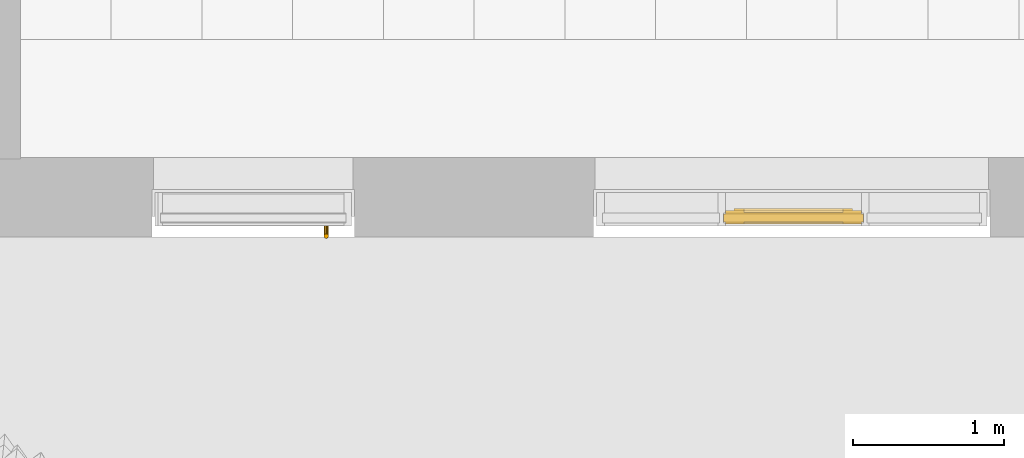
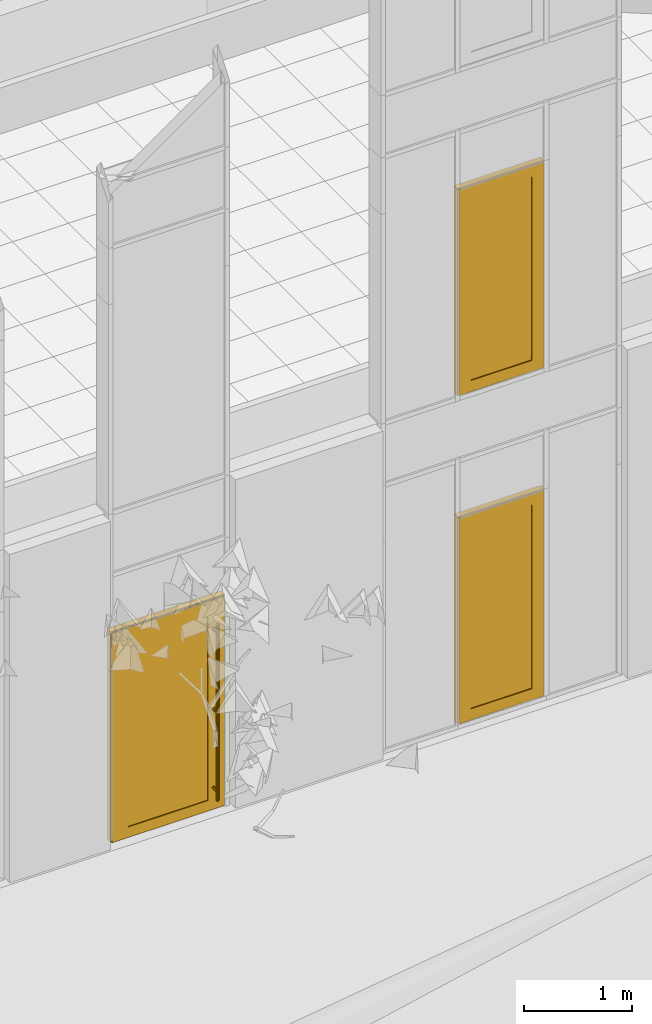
# One storey, part 152 of 246: 2 windows, 1 door, 2 elements without a shape of their own.
"""IFC2X3 building model written with IfcOpenShell, lengths in millimetres."""

import ifcopenshell
import ifcopenshell.guid

model = None  # the IFC model being written
_history = None  # IfcOwnerHistory: only IFC2X3 demands one
_inside = {}  # id of a spatial element -> (the spatial element, [elements in it])
_under = {}  # id of a project, library or spatial element -> (it, [spatial elements below it])
_declared = {}  # id of a project -> (the project, [libraries it declares])
_typed = {}  # id of a type object -> (the type object, [elements of that type])
_made_of = {}  # id of a material, layer set ... -> (it, [elements and type objects made of it])


def new_model(schema):
    """Start an empty IFC model of exactly this schema.

    Asked for "IFC4X3", IfcOpenShell would pick the latest addendum, in which some entities
    have other attributes; the version numbers below select the first issue.
    IFC2X3 requires an IfcOwnerHistory on every rooted entity: one is made here for all.
    """
    global model, _history
    if schema == "IFC4X3":
        model = ifcopenshell.file(schema_version=(4, 3, 0, 0))
    else:
        model = ifcopenshell.file(schema=schema)
    _inside.clear()
    _under.clear()
    _declared.clear()
    _typed.clear()
    _made_of.clear()
    _history = None
    if model.schema == "IFC2X3":
        org = make("IfcOrganization", Name="unknown")
        user = make(
            "IfcPersonAndOrganization",
            ThePerson=make("IfcPerson", FamilyName="unknown"),
            TheOrganization=org,
        )
        app = make(
            "IfcApplication",
            ApplicationDeveloper=org,
            Version="unknown",
            ApplicationFullName="unknown",
            ApplicationIdentifier="unknown",
        )
        _history = make(
            "IfcOwnerHistory",
            OwningUser=user,
            OwningApplication=app,
            ChangeAction="ADDED",
            CreationDate=0,
        )
    return model


def make(cls, **values):
    """One entity of the class cls with the attributes given. An attribute that is None is left unset."""
    return model.create_entity(
        cls, **{name: value for name, value in values.items() if value is not None}
    )


def entity(cls, *values):
    """Any entity or typed value of the class cls, its attributes in the order of the schema. None: left unset."""
    e = model.create_entity(cls)
    for i, value in enumerate(values):
        if value is not None:
            e[i] = value
    return e


def rooted(cls, **values):
    """An entity with a GlobalId (a new one), such as an element, a storey or a relation."""
    return make(cls, GlobalId=ifcopenshell.guid.new(), OwnerHistory=_history, **values)


def si_unit(unit_type, name, prefix=None):
    """IfcSIUnit, for example si_unit("LENGTHUNIT", "METRE", prefix="MILLI")."""
    return make("IfcSIUnit", UnitType=unit_type, Prefix=prefix, Name=name)


def converted_unit(unit_type, name, factor, base, dimensions=None, offset=None):
    """IfcConversionBasedUnit, such as the inch: factor (a typed value) times the base unit."""
    return make(
        "IfcConversionBasedUnit"
        if offset is None
        else "IfcConversionBasedUnitWithOffset",
        ConversionOffset=offset,
        Dimensions=None
        if dimensions is None
        else entity("IfcDimensionalExponents", *dimensions),
        UnitType=unit_type,
        Name=name,
        ConversionFactor=make(
            "IfcMeasureWithUnit", ValueComponent=factor, UnitComponent=base
        ),
    )


def derived_unit(unit_type, elements):
    """IfcDerivedUnit: a product of units, each with its exponent."""
    return make(
        "IfcDerivedUnit",
        Elements=[
            make("IfcDerivedUnitElement", Unit=unit, Exponent=power)
            for unit, power in elements
        ],
        UnitType=unit_type,
    )


def money_unit(currency):
    """IfcMonetaryUnit."""
    return make("IfcMonetaryUnit", Currency=currency)


def assignment(units):
    """IfcUnitAssignment: the units of a project."""
    return None if units is None else make("IfcUnitAssignment", Units=units)


def point(xyz):
    """IfcCartesianPoint."""
    return None if xyz is None else make("IfcCartesianPoint", Coordinates=xyz)


def direction(xyz):
    """IfcDirection."""
    return None if xyz is None else make("IfcDirection", DirectionRatios=xyz)


def frame(location, z_axis=None, x_axis=None):
    """IfcAxis2Placement3D, a coordinate frame: its origin and axes. An axis left out is left unset."""
    return make(
        "IfcAxis2Placement3D",
        Location=point(location),
        Axis=direction(z_axis),
        RefDirection=direction(x_axis),
    )


def origin_with_axes():
    """The frame at (0, 0, 0) with the z axis (0, 0, 1) and the x axis (1, 0, 0) written out."""
    return frame((0.0, 0.0, 0.0), z_axis=(0.0, 0.0, 1.0), x_axis=(1.0, 0.0, 0.0))


def place(relative_to, where):
    """IfcLocalPlacement: puts the frame where relative to a parent placement (None: the world)."""
    return make(
        "IfcLocalPlacement", PlacementRelTo=relative_to, RelativePlacement=where
    )


def context(
    kind, dimensions, precision=None, world=None, true_north=None, identifier=None
):
    """IfcGeometricRepresentationContext, for example the 3D "Model" context."""
    return make(
        "IfcGeometricRepresentationContext",
        ContextIdentifier=identifier,
        ContextType=kind,
        CoordinateSpaceDimension=dimensions,
        Precision=precision,
        WorldCoordinateSystem=world,
        TrueNorth=true_north,
    )


def subcontext(parent, identifier, kind, view, scale=None):
    """IfcGeometricRepresentationSubContext, for example "Body" below "Model"."""
    return make(
        "IfcGeometricRepresentationSubContext",
        ContextIdentifier=identifier,
        ContextType=kind,
        ParentContext=parent,
        TargetScale=scale,
        TargetView=view,
    )


def project(units=None, contexts=None):
    """IfcProject with its units and contexts."""
    return rooted(
        "IfcProject",
        Name="project",
        RepresentationContexts=contexts,
        UnitsInContext=assignment(units),
    )


def spatial(cls, under=None, at=None, **own):
    """A site, building, storey or space (cls), placed at a placement, below another one or the project."""
    s = rooted(cls, ObjectPlacement=at, **own)
    if under is not None:
        _under.setdefault(under.id(), (under, []))[1].append(s)
    return s


def faces_of(points, faces, orient=None, outer=None):
    """IfcFace entities. A face is a list of loops; a loop is a list of indices into points, from 0.

    orient and outer hold one flag for each loop. By default every Orientation is true, the
    first loop of a face is its IfcFaceOuterBound and the others are IfcFaceBound.
    """
    made = []
    for i, loops in enumerate(faces):
        bounds = []
        for j, loop in enumerate(loops):
            is_outer = j == 0 if outer is None else outer[i][j]
            bounds.append(
                make(
                    "IfcFaceOuterBound" if is_outer else "IfcFaceBound",
                    Bound=make("IfcPolyLoop", Polygon=[points[k] for k in loop]),
                    Orientation=True if orient is None else orient[i][j],
                )
            )
        made.append(make("IfcFace", Bounds=bounds))
    return made


def open_shell(faces, orient=None, outer=None):
    """The faces of one IfcOpenShell. surface_model builds it on its shared points."""
    return ("IfcOpenShell", faces, orient, outer)


def faceted_brep(points, faces, orient=None, outer=None, voids=None):
    """IfcFacetedBrep: a solid bounded by flat faces; with voids (closed shells), ...WithVoids."""
    shared = [point(p) for p in points]
    hull = make("IfcClosedShell", CfsFaces=faces_of(shared, faces, orient, outer))
    if voids is None:
        return make("IfcFacetedBrep", Outer=hull)
    return make(
        "IfcFacetedBrepWithVoids",
        Outer=hull,
        Voids=[
            make(cls, CfsFaces=faces_of(shared, fs, o, b)) for cls, fs, o, b in voids
        ],
    )


def surface_model(cls, points, shells):
    """IfcFaceBasedSurfaceModel or IfcShellBasedSurfaceModel (cls): surfaces that need not close."""
    shared = [point(p) for p in points]
    made = [make(c, CfsFaces=faces_of(shared, fs, o, b)) for c, fs, o, b in shells]
    if cls == "IfcFaceBasedSurfaceModel":
        return make(cls, FbsmFaces=made)
    return make(cls, SbsmBoundary=made)


def shape(context_of_items, identifier, shape_type, items):
    """IfcShapeRepresentation: the items that make up one representation, for example the "Body"."""
    return make(
        "IfcShapeRepresentation",
        ContextOfItems=context_of_items,
        RepresentationIdentifier=identifier,
        RepresentationType=shape_type,
        Items=items,
    )


def source(mapping_origin, context_of_items, identifier, shape_type, items):
    """IfcRepresentationMap: a shape defined once, which mapped items show again and again."""
    return make(
        "IfcRepresentationMap",
        MappingOrigin=mapping_origin,
        MappedRepresentation=shape(context_of_items, identifier, shape_type, items),
    )


def transform(
    local_origin,
    x_axis=None,
    y_axis=None,
    z_axis=None,
    scale=None,
    scale2=None,
    scale3=None,
    uniform=True,
):
    """IfcCartesianTransformationOperator3D, or its non-uniform kind. x_axis, y_axis, z_axis: its Axis1, 2, 3."""
    if uniform:
        return make(
            "IfcCartesianTransformationOperator3D",
            Axis1=direction(x_axis),
            Axis2=direction(y_axis),
            LocalOrigin=point(local_origin),
            Scale=scale,
            Axis3=direction(z_axis),
        )
    return make(
        "IfcCartesianTransformationOperator3DnonUniform",
        Axis1=direction(x_axis),
        Axis2=direction(y_axis),
        LocalOrigin=point(local_origin),
        Scale=scale,
        Axis3=direction(z_axis),
        Scale2=scale2,
        Scale3=scale3,
    )


def mapped(mapping_source, mapping_target):
    """IfcMappedItem: shows the shape of a source again, moved by a transform."""
    return make(
        "IfcMappedItem", MappingSource=mapping_source, MappingTarget=mapping_target
    )


def material(Name=None, Category=None):
    """IfcMaterial."""
    return make("IfcMaterial", Name=Name, Category=Category)


def material_list(materials):
    """IfcMaterialList."""
    return make("IfcMaterialList", Materials=materials)


def made_of(thing, what):
    """Note that an element or type object is made of a material, layer set ...; save() writes the relation."""
    if what is not None:
        _made_of.setdefault(what.id(), (what, []))[1].append(thing)
    return thing


def type_object(cls, material=None, **own):
    """A type object (cls), such as IfcWallType, which elements share."""
    return made_of(rooted(cls, **own), material)


def element(
    cls,
    number,
    at=None,
    inside=None,
    cuts=None,
    type_object=None,
    material=None,
    context=None,
    identifier="Body",
    shape_type=None,
    held_by="IfcProductDefinitionShape",
    body=None,
    shapes=None,
    **own,
):
    """One element of the class cls, such as IfcWall. Its Tag is "e" and its number.

    at: its placement. inside: the storey or other place that contains it. cuts: it is an
    opening in that element (IfcRelVoidsElement). A single representation is given by context,
    identifier, shape_type and body (its items); several are given by shapes. held_by: the class
    of the entity that holds the representations. save() writes the other relations.
    """
    e = rooted(cls, Tag="e%d" % number, ObjectPlacement=at, **own)
    if body is not None:
        shapes = [shape(context, identifier, shape_type, body)]
    if shapes is not None:
        e.Representation = make(held_by, Representations=shapes)
    if inside is not None:
        _inside.setdefault(inside.id(), (inside, []))[1].append(e)
    if cuts is not None:
        rooted(
            "IfcRelVoidsElement", RelatingBuildingElement=cuts, RelatedOpeningElement=e
        )
    if type_object is not None:
        _typed.setdefault(type_object.id(), (type_object, []))[1].append(e)
    return made_of(e, material)


def aggregate(whole, parts):
    """IfcRelAggregates: a whole, such as a stair, and the parts it consists of."""
    return rooted("IfcRelAggregates", RelatingObject=whole, RelatedObjects=parts)


def save(model, path):
    """Write the relations noted so far, then the file.

    IfcRelAggregates (storeys below a building ...), IfcRelContainedInSpatialStructure (elements
    in a storey), IfcRelDefinesByType, IfcRelAssociatesMaterial and IfcRelDeclares: one each for
    every whole, place, type object, material and project.
    """
    for whole, parts in _under.values():
        aggregate(whole, parts)
    for where, things in _inside.values():
        rooted(
            "IfcRelContainedInSpatialStructure",
            RelatedElements=things,
            RelatingStructure=where,
        )
    for kind, things in _typed.values():
        rooted("IfcRelDefinesByType", RelatedObjects=things, RelatingType=kind)
    for what, things in _made_of.values():
        rooted("IfcRelAssociatesMaterial", RelatedObjects=things, RelatingMaterial=what)
    for by, libraries in _declared.values():
        rooted("IfcRelDeclares", RelatingContext=by, RelatedDefinitions=libraries)
    model.write(path)


model = new_model("IFC2X3")

# Units and contexts
model_context = context("Model", 3, precision=0.01, world=origin_with_axes(), true_north=direction((0.0, 1.0)))
body_context = subcontext(model_context, "Body", "Model", "MODEL_VIEW")
ifc_project = project(units=[si_unit("LENGTHUNIT", "METRE", prefix="MILLI"), si_unit("AREAUNIT", "SQUARE_METRE"), si_unit("VOLUMEUNIT", "CUBIC_METRE"), converted_unit("PLANEANGLEUNIT", "DEGREE", entity("IfcPlaneAngleMeasure", 0.0174532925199), si_unit("PLANEANGLEUNIT", "RADIAN"), dimensions=[0, 0, 0, 0, 0, 0, 0]), si_unit("SOLIDANGLEUNIT", "STERADIAN"), money_unit("EUR"), converted_unit("TIMEUNIT", "Year", entity("IfcTimeMeasure", 31556926.0), si_unit("TIMEUNIT", "SECOND"), dimensions=[0, 0, 1, 0, 0, 0, 0]), si_unit("MASSUNIT", "GRAM", prefix="KILO"), si_unit("THERMODYNAMICTEMPERATUREUNIT", "DEGREE_CELSIUS"), si_unit("LUMINOUSINTENSITYUNIT", "LUMEN"), si_unit("ENERGYUNIT", "JOULE", prefix="MEGA"), derived_unit("THERMALCONDUCTANCEUNIT", [(si_unit("POWERUNIT", "WATT"), 1), (si_unit("LENGTHUNIT", "METRE"), -1), (si_unit("THERMODYNAMICTEMPERATUREUNIT", "KELVIN"), -1)]), derived_unit("SPECIFICHEATCAPACITYUNIT", [(si_unit("ENERGYUNIT", "JOULE"), 1), (si_unit("MASSUNIT", "GRAM", prefix="KILO"), -1), (si_unit("THERMODYNAMICTEMPERATUREUNIT", "KELVIN"), -1)]), derived_unit("MASSDENSITYUNIT", [(si_unit("MASSUNIT", "GRAM", prefix="KILO"), 1), (si_unit("VOLUMEUNIT", "CUBIC_METRE"), -1)])], contexts=[model_context])

# Site, building, storey
site_placement = place(None, origin_with_axes())
site = spatial("IfcSite", under=ifc_project, at=site_placement, Name="L.Koidula tn 11b", CompositionType="ELEMENT")
building_placement = place(site_placement, origin_with_axes())
building = spatial("IfcBuilding", under=site, at=building_placement, Name="Rakvere Riigigümnaasium", CompositionType="ELEMENT")
storey_placement = place(building_placement, origin_with_axes())
storey = spatial("IfcBuildingStorey", under=building, at=storey_placement, Name="1.korrus 0,00", CompositionType="ELEMENT", Elevation=0.0)

# Curtain wall, windows
curtain_wall_type = type_object("IfcCurtainWallType", Name="Curtain Wall Type", PredefinedType="NOTDEFINED")
curtain_wall_1_placement = place(storey_placement, frame((90220.0003282, 5111.43278481, -1.61944594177e-05), z_axis=(0.0, 0.0, 1.0), x_axis=(1.0, 0.0, 0.0)))
curtain_wall_1 = element("IfcCurtainWall", 1, at=curtain_wall_1_placement, inside=storey, type_object=curtain_wall_type, Name="KLF-05-3A")
ifc_material_1 = material(Name="Alumiiniumprofiil (RAL 7021)")
ifc_material_2 = material(Name="Klaaspakett 3x ribikardinatega")
ifc_material_list_1 = material_list([ifc_material_1, ifc_material_2])
window_style = type_object("IfcWindowStyle", Name="926 x 2351 x 54", ConstructionType="NOTDEFINED", OperationType="NOTDEFINED", ParameterTakesPrecedence=False, Sizeable=False)
shared_shape_1 = source(origin_with_axes(), body_context, "Body", "SurfaceModel", [
    surface_model("IfcShellBasedSurfaceModel", [(24.9999850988, 24.9999850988, 38.0), (83.9999850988, 83.9999850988, 38.0), (866.000014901, 83.9999850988, 38.0), (925.000014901, 24.9999850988, 38.0)], [open_shell([[[0, 1, 2, 3]]])]),
    surface_model("IfcShellBasedSurfaceModel", [(925.000014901, 24.9999850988, 38.0), (866.000014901, 83.9999850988, 38.0), (866.000014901, 2291.0000149, 38.0), (925.000014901, 2350.0000149, 38.0)], [open_shell([[[0, 1, 2, 3]]])]),
    surface_model("IfcShellBasedSurfaceModel", [(24.9999850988, 2350.0000149, 38.0), (925.000014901, 2350.0000149, 38.0), (866.000014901, 2291.0000149, 38.0), (83.9999850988, 2291.0000149, 38.0)], [open_shell([[[0, 1, 2, 3]]])]),
    surface_model("IfcShellBasedSurfaceModel", [(24.9999850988, 24.9999850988, 38.0), (24.9999850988, 2350.0000149, 38.0), (83.9999850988, 2291.0000149, 38.0), (83.9999850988, 83.9999850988, 38.0)], [open_shell([[[0, 1, 2, 3]]])]),
    faceted_brep([(24.9999850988, 24.9999850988, -51.0), (925.000014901, 24.9999850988, -51.0), (925.000014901, 24.9999850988, 38.0), (24.9999850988, 24.9999850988, 38.0), (83.9999850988, 83.9999850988, -51.0), (866.000014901, 83.9999850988, -51.0), (866.000014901, 83.9999850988, 38.0), (83.9999850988, 83.9999850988, 38.0)], [[[0, 1, 2, 3]], [[0, 4, 5, 1]], [[1, 5, 6, 2]], [[3, 2, 6, 7]], [[4, 0, 3, 7]], [[5, 4, 7, 6]]]),
    faceted_brep([(925.000014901, 24.9999850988, -51.0), (925.000014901, 2350.0000149, -51.0), (925.000014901, 2350.0000149, 38.0), (925.000014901, 24.9999850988, 38.0), (866.000014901, 83.9999850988, -51.0), (866.000014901, 2291.0000149, -51.0), (866.000014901, 2291.0000149, 38.0), (866.000014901, 83.9999850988, 38.0)], [[[0, 1, 2, 3]], [[0, 4, 5, 1]], [[1, 5, 6, 2]], [[3, 2, 6, 7]], [[4, 0, 3, 7]], [[5, 4, 7, 6]]]),
    faceted_brep([(24.9999850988, 2350.0000149, -51.0), (83.9999850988, 2291.0000149, -51.0), (83.9999850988, 2291.0000149, 38.0), (24.9999850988, 2350.0000149, 38.0), (925.000014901, 2350.0000149, -51.0), (866.000014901, 2291.0000149, -51.0), (866.000014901, 2291.0000149, 38.0), (925.000014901, 2350.0000149, 38.0)], [[[0, 1, 2, 3]], [[0, 4, 5, 1]], [[1, 5, 6, 2]], [[3, 2, 6, 7]], [[4, 0, 3, 7]], [[5, 4, 7, 6]]]),
    faceted_brep([(24.9999850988, 24.9999850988, -51.0), (83.9999850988, 83.9999850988, -51.0), (83.9999850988, 83.9999850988, 38.0), (24.9999850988, 24.9999850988, 38.0), (24.9999850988, 2350.0000149, -51.0), (83.9999850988, 2291.0000149, -51.0), (83.9999850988, 2291.0000149, 38.0), (24.9999850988, 2350.0000149, 38.0)], [[[0, 1, 2, 3]], [[0, 4, 5, 1]], [[1, 5, 6, 2]], [[3, 2, 6, 7]], [[4, 0, 3, 7]], [[5, 4, 7, 6]]]),
    faceted_brep([(11.9999985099, 11.9999985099, -27.0), (938.00000149, 11.9999985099, -27.0), (938.00000149, 11.9999985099, 27.0), (11.9999985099, 11.9999985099, 27.0), (24.9999850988, 24.9999850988, -27.0), (925.000014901, 24.9999850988, -27.0), (925.000014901, 24.9999850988, 27.0), (24.9999850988, 24.9999850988, 27.0)], [[[0, 1, 2, 3]], [[0, 4, 5, 1]], [[1, 5, 6, 2]], [[3, 2, 6, 7]], [[4, 0, 3, 7]], [[5, 4, 7, 6]]]),
    faceted_brep([(938.00000149, 11.9999985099, -27.0), (938.00000149, 2363.00000149, -27.0), (938.00000149, 2363.00000149, 27.0), (938.00000149, 11.9999985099, 27.0), (925.000014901, 24.9999850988, -27.0), (925.000014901, 2350.0000149, -27.0), (925.000014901, 2350.0000149, 27.0), (925.000014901, 24.9999850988, 27.0)], [[[0, 1, 2, 3]], [[0, 4, 5, 1]], [[1, 5, 6, 2]], [[3, 2, 6, 7]], [[4, 0, 3, 7]], [[5, 4, 7, 6]]]),
    faceted_brep([(938.00000149, 2363.00000149, -27.0), (11.9999985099, 2363.00000149, -27.0), (11.9999985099, 2363.00000149, 27.0), (938.00000149, 2363.00000149, 27.0), (925.000014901, 2350.0000149, -27.0), (24.9999850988, 2350.0000149, -27.0), (24.9999850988, 2350.0000149, 27.0), (925.000014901, 2350.0000149, 27.0)], [[[0, 1, 2, 3]], [[0, 4, 5, 1]], [[1, 5, 6, 2]], [[3, 2, 6, 7]], [[4, 0, 3, 7]], [[5, 4, 7, 6]]]),
    faceted_brep([(11.9999985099, 2363.00000149, -27.0), (11.9999985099, 11.9999985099, -27.0), (11.9999985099, 11.9999985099, 27.0), (11.9999985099, 2363.00000149, 27.0), (24.9999850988, 2350.0000149, -27.0), (24.9999850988, 24.9999850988, -27.0), (24.9999850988, 24.9999850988, 27.0), (24.9999850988, 2350.0000149, 27.0)], [[[0, 1, 2, 3]], [[0, 4, 5, 1]], [[1, 5, 6, 2]], [[3, 2, 6, 7]], [[4, 0, 3, 7]], [[5, 4, 7, 6]]]),
    faceted_brep([(146.999985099, 146.999985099, 38.0), (146.999985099, 146.999985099, -62.0), (146.999985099, 2228.0000149, -62.0), (146.999985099, 2228.0000149, 38.0), (83.9999850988, 83.9999850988, 38.0), (83.9999850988, 83.9999850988, -62.0), (83.9999850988, 2291.0000149, -62.0), (83.9999850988, 2291.0000149, 38.0)], [[[0, 1, 2, 3]], [[4, 5, 1, 0]], [[1, 5, 6, 2]], [[3, 2, 6, 7]], [[0, 3, 7, 4]], [[7, 6, 5, 4]]]),
    faceted_brep([(866.000014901, 83.9999850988, 38.0), (866.000014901, 83.9999850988, -62.0), (866.000014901, 2291.0000149, -62.0), (866.000014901, 2291.0000149, 38.0), (803.000014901, 146.999985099, 38.0), (803.000014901, 146.999985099, -62.0), (803.000014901, 2228.0000149, -62.0), (803.000014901, 2228.0000149, 38.0)], [[[0, 1, 2, 3]], [[4, 5, 1, 0]], [[1, 5, 6, 2]], [[3, 2, 6, 7]], [[0, 3, 7, 4]], [[7, 6, 5, 4]]]),
    faceted_brep([(866.000014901, 83.9999850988, 38.0), (866.000014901, 83.9999850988, -62.0), (803.000014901, 146.999985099, -62.0), (803.000014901, 146.999985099, 38.0), (83.9999850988, 83.9999850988, 38.0), (83.9999850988, 83.9999850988, -62.0), (146.999985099, 146.999985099, -62.0), (146.999985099, 146.999985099, 38.0)], [[[0, 1, 2, 3]], [[4, 5, 1, 0]], [[1, 5, 6, 2]], [[3, 2, 6, 7]], [[0, 3, 7, 4]], [[7, 6, 5, 4]]]),
    faceted_brep([(83.9999850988, 2291.0000149, 38.0), (83.9999850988, 2291.0000149, -62.0), (146.999985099, 2228.0000149, -62.0), (146.999985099, 2228.0000149, 38.0), (866.000014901, 2291.0000149, 38.0), (866.000014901, 2291.0000149, -62.0), (803.000014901, 2228.0000149, -62.0), (803.000014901, 2228.0000149, 38.0)], [[[0, 1, 2, 3]], [[4, 5, 1, 0]], [[1, 5, 6, 2]], [[3, 2, 6, 7]], [[0, 3, 7, 4]], [[7, 6, 5, 4]]]),
    faceted_brep([(146.999985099, 146.999985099, 27.0), (146.999985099, 146.999985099, -38.0), (803.000014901, 146.999985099, -38.0), (803.000014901, 146.999985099, 27.0), (146.999985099, 2228.0000149, 27.0), (146.999985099, 2228.0000149, -38.0), (803.000014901, 2228.0000149, -38.0), (803.000014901, 2228.0000149, 27.0)], [[[0, 1, 2, 3]], [[4, 5, 1, 0]], [[1, 5, 6, 2]], [[3, 2, 6, 7]], [[0, 3, 7, 4]], [[7, 6, 5, 4]]]),
])
window_1_placement = place(curtain_wall_1_placement, frame((0.0, 0.0, 4932.5), z_axis=(0.0, 0.0, 1.0), x_axis=(-0.999999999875, 1.58166009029e-05, 0.0)))
window_1 = element("IfcWindow", 2, at=window_1_placement, type_object=window_style, material=ifc_material_list_1, Name="KLF-05-A-2", ObjectType="WINDOW", context=body_context, shape_type="MappedRepresentation", body=[
    mapped(shared_shape_1, transform((475.0, 0.0, -1187.5), x_axis=(-1.0, 0.0, 0.0), y_axis=(0.0, 0.0, 1.0), z_axis=(0.0, 1.0, 0.0))),
])
shared_shape_2 = source(origin_with_axes(), body_context, "Body", "SurfaceModel", [
    surface_model("IfcShellBasedSurfaceModel", [(25.0, 50.0, 38.0), (84.0, 109.0, 38.0), (866.0, 109.0, 38.0), (925.0, 50.0, 38.0)], [open_shell([[[0, 1, 2, 3]]])]),
    surface_model("IfcShellBasedSurfaceModel", [(925.0, 50.0, 38.0), (866.0, 109.0, 38.0), (866.0, 2316.0, 38.0), (925.0, 2375.0, 38.0)], [open_shell([[[0, 1, 2, 3]]])]),
    surface_model("IfcShellBasedSurfaceModel", [(25.0, 2375.0, 38.0), (925.0, 2375.0, 38.0), (866.0, 2316.0, 38.0), (84.0, 2316.0, 38.0)], [open_shell([[[0, 1, 2, 3]]])]),
    surface_model("IfcShellBasedSurfaceModel", [(25.0, 50.0, 38.0), (25.0, 2375.0, 38.0), (84.0, 2316.0, 38.0), (84.0, 109.0, 38.0)], [open_shell([[[0, 1, 2, 3]]])]),
    faceted_brep([(25.0, 50.0, -51.0), (925.0, 50.0, -51.0), (925.0, 50.0, 38.0), (25.0, 50.0, 38.0), (84.0, 109.0, -51.0), (866.0, 109.0, -51.0), (866.0, 109.0, 38.0), (84.0, 109.0, 38.0)], [[[0, 1, 2, 3]], [[0, 4, 5, 1]], [[1, 5, 6, 2]], [[3, 2, 6, 7]], [[4, 0, 3, 7]], [[5, 4, 7, 6]]]),
    faceted_brep([(925.0, 50.0, -51.0), (925.0, 2375.0, -51.0), (925.0, 2375.0, 38.0), (925.0, 50.0, 38.0), (866.0, 109.0, -51.0), (866.0, 2316.0, -51.0), (866.0, 2316.0, 38.0), (866.0, 109.0, 38.0)], [[[0, 1, 2, 3]], [[0, 4, 5, 1]], [[1, 5, 6, 2]], [[3, 2, 6, 7]], [[4, 0, 3, 7]], [[5, 4, 7, 6]]]),
    faceted_brep([(25.0, 2375.0, -51.0), (84.0, 2316.0, -51.0), (84.0, 2316.0, 38.0), (25.0, 2375.0, 38.0), (925.0, 2375.0, -51.0), (866.0, 2316.0, -51.0), (866.0, 2316.0, 38.0), (925.0, 2375.0, 38.0)], [[[0, 1, 2, 3]], [[0, 4, 5, 1]], [[1, 5, 6, 2]], [[3, 2, 6, 7]], [[4, 0, 3, 7]], [[5, 4, 7, 6]]]),
    faceted_brep([(25.0, 50.0, -51.0), (84.0, 109.0, -51.0), (84.0, 109.0, 38.0), (25.0, 50.0, 38.0), (25.0, 2375.0, -51.0), (84.0, 2316.0, -51.0), (84.0, 2316.0, 38.0), (25.0, 2375.0, 38.0)], [[[0, 1, 2, 3]], [[0, 4, 5, 1]], [[1, 5, 6, 2]], [[3, 2, 6, 7]], [[4, 0, 3, 7]], [[5, 4, 7, 6]]]),
    faceted_brep([(12.0, 37.0, -27.0), (938.0, 37.0, -27.0), (938.0, 37.0, 27.0), (12.0, 37.0, 27.0), (25.0, 50.0, -27.0), (925.0, 50.0, -27.0), (925.0, 50.0, 27.0), (25.0, 50.0, 27.0)], [[[0, 1, 2, 3]], [[0, 4, 5, 1]], [[1, 5, 6, 2]], [[3, 2, 6, 7]], [[4, 0, 3, 7]], [[5, 4, 7, 6]]]),
    faceted_brep([(938.0, 37.0, -27.0), (938.0, 2388.0, -27.0), (938.0, 2388.0, 27.0), (938.0, 37.0, 27.0), (925.0, 50.0, -27.0), (925.0, 2375.0, -27.0), (925.0, 2375.0, 27.0), (925.0, 50.0, 27.0)], [[[0, 1, 2, 3]], [[0, 4, 5, 1]], [[1, 5, 6, 2]], [[3, 2, 6, 7]], [[4, 0, 3, 7]], [[5, 4, 7, 6]]]),
    faceted_brep([(938.0, 2388.0, -27.0), (12.0, 2388.0, -27.0), (12.0, 2388.0, 27.0), (938.0, 2388.0, 27.0), (925.0, 2375.0, -27.0), (25.0, 2375.0, -27.0), (25.0, 2375.0, 27.0), (925.0, 2375.0, 27.0)], [[[0, 1, 2, 3]], [[0, 4, 5, 1]], [[1, 5, 6, 2]], [[3, 2, 6, 7]], [[4, 0, 3, 7]], [[5, 4, 7, 6]]]),
    faceted_brep([(12.0, 2388.0, -27.0), (12.0, 37.0, -27.0), (12.0, 37.0, 27.0), (12.0, 2388.0, 27.0), (25.0, 2375.0, -27.0), (25.0, 50.0, -27.0), (25.0, 50.0, 27.0), (25.0, 2375.0, 27.0)], [[[0, 1, 2, 3]], [[0, 4, 5, 1]], [[1, 5, 6, 2]], [[3, 2, 6, 7]], [[4, 0, 3, 7]], [[5, 4, 7, 6]]]),
    faceted_brep([(147.0, 172.0, 38.0), (147.0, 172.0, -62.0), (147.0, 2253.0, -62.0), (147.0, 2253.0, 38.0), (84.0, 109.0, 38.0), (84.0, 109.0, -62.0), (84.0, 2316.0, -62.0), (84.0, 2316.0, 38.0)], [[[0, 1, 2, 3]], [[4, 5, 1, 0]], [[1, 5, 6, 2]], [[3, 2, 6, 7]], [[0, 3, 7, 4]], [[7, 6, 5, 4]]]),
    faceted_brep([(866.0, 109.0, 38.0), (866.0, 109.0, -62.0), (866.0, 2316.0, -62.0), (866.0, 2316.0, 38.0), (803.0, 172.0, 38.0), (803.0, 172.0, -62.0), (803.0, 2253.0, -62.0), (803.0, 2253.0, 38.0)], [[[0, 1, 2, 3]], [[4, 5, 1, 0]], [[1, 5, 6, 2]], [[3, 2, 6, 7]], [[0, 3, 7, 4]], [[7, 6, 5, 4]]]),
    faceted_brep([(866.0, 109.0, 38.0), (866.0, 109.0, -62.0), (803.0, 172.0, -62.0), (803.0, 172.0, 38.0), (84.0, 109.0, 38.0), (84.0, 109.0, -62.0), (147.0, 172.0, -62.0), (147.0, 172.0, 38.0)], [[[0, 1, 2, 3]], [[4, 5, 1, 0]], [[1, 5, 6, 2]], [[3, 2, 6, 7]], [[0, 3, 7, 4]], [[7, 6, 5, 4]]]),
    faceted_brep([(84.0, 2316.0, 38.0), (84.0, 2316.0, -62.0), (147.0, 2253.0, -62.0), (147.0, 2253.0, 38.0), (866.0, 2316.0, 38.0), (866.0, 2316.0, -62.0), (803.0, 2253.0, -62.0), (803.0, 2253.0, 38.0)], [[[0, 1, 2, 3]], [[4, 5, 1, 0]], [[1, 5, 6, 2]], [[3, 2, 6, 7]], [[0, 3, 7, 4]], [[7, 6, 5, 4]]]),
    faceted_brep([(147.0, 172.0, 27.0), (147.0, 172.0, -38.0), (803.0, 172.0, -38.0), (803.0, 172.0, 27.0), (147.0, 2253.0, 27.0), (147.0, 2253.0, -38.0), (803.0, 2253.0, -38.0), (803.0, 2253.0, 27.0)], [[[0, 1, 2, 3]], [[4, 5, 1, 0]], [[1, 5, 6, 2]], [[3, 2, 6, 7]], [[0, 3, 7, 4]], [[7, 6, 5, 4]]]),
])
window_2_placement = place(curtain_wall_1_placement, frame((0.0, 0.0, 1200.0), z_axis=(0.0, 0.0, 1.0), x_axis=(-0.999999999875, 1.58166009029e-05, 0.0)))
window_2 = element("IfcWindow", 3, at=window_2_placement, type_object=window_style, material=ifc_material_list_1, Name="KLF-05-A-2", ObjectType="WINDOW", context=body_context, shape_type="MappedRepresentation", body=[
    mapped(shared_shape_2, transform((475.0, 0.0, -1200.0), x_axis=(-1.0, 0.0, 0.0), y_axis=(0.0, 0.0, 1.0), z_axis=(0.0, 1.0, 0.0))),
])
aggregate(curtain_wall_1, [window_2, window_1])

# Curtain wall, door
curtain_wall_2_placement = place(storey_placement, frame((86440.3647921, 5111.45334637, -1.61944652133e-05), z_axis=(0.0, 0.0, 1.0), x_axis=(1.0, 0.0, 0.0)))
curtain_wall_2 = element("IfcCurtainWall", 4, at=curtain_wall_2_placement, inside=storey, type_object=curtain_wall_type, Name="KLF-05-1A")
ifc_material_3 = material(Name="VKR-05_Klaas")
ifc_material_4 = material(Name="teras_must")
ifc_material_5 = material(Name="GENERIC - STRUCTURAL")
ifc_material_list_2 = material_list([ifc_material_1, ifc_material_3, ifc_material_4, ifc_material_5])
door_style = type_object("IfcDoorStyle", Name="1226 x 2388 x 54", ConstructionType="NOTDEFINED", OperationType="NOTDEFINED", ParameterTakesPrecedence=False, Sizeable=False)
shared_shape_3 = source(origin_with_axes(), body_context, "Body", "SurfaceModel", [
    surface_model("IfcShellBasedSurfaceModel", [(1250.22147915, 0.0, -53.0), (1197.22147915, 0.0, -53.0), (1197.22147915, 2322.0, -53.0), (1250.22147915, 2375.0, -53.0)], [open_shell([[[0, 1, 2, 3]]])]),
    surface_model("IfcShellBasedSurfaceModel", [(50.0, 2375.0, -53.0), (1250.22147915, 2375.0, -53.0), (1197.22147915, 2322.0, -53.0), (103.0, 2322.0, -53.0)], [open_shell([[[0, 1, 2, 3]]])]),
    surface_model("IfcShellBasedSurfaceModel", [(50.0, 0.0, -53.0), (50.0, 2375.0, -53.0), (103.0, 2322.0, -53.0), (103.0, 0.0, -53.0)], [open_shell([[[0, 1, 2, 3]]])]),
    faceted_brep([(1250.22147915, 0.0, -53.0), (1250.22147915, 2375.0, -53.0), (1250.22147915, 2375.0, 37.0), (1250.22147915, 0.0, 37.0), (1197.22147915, 0.0, -53.0), (1197.22147915, 2322.0, -53.0), (1197.22147915, 2322.0, 37.0), (1197.22147915, 0.0, 37.0)], [[[0, 1, 2, 3]], [[0, 4, 5, 1]], [[1, 5, 6, 2]], [[3, 2, 6, 7]], [[4, 0, 3, 7]], [[5, 4, 7, 6]]]),
    faceted_brep([(50.0, 2375.0, -53.0), (103.0, 2322.0, -53.0), (103.0, 2322.0, 37.0), (50.0, 2375.0, 37.0), (1250.22147915, 2375.0, -53.0), (1197.22147915, 2322.0, -53.0), (1197.22147915, 2322.0, 37.0), (1250.22147915, 2375.0, 37.0)], [[[0, 1, 2, 3]], [[0, 4, 5, 1]], [[1, 5, 6, 2]], [[3, 2, 6, 7]], [[4, 0, 3, 7]], [[5, 4, 7, 6]]]),
    faceted_brep([(50.0, 0.0, -53.0), (103.0, 0.0, -53.0), (103.0, 0.0, 37.0), (50.0, 0.0, 37.0), (50.0, 2375.0, -53.0), (103.0, 2322.0, -53.0), (103.0, 2322.0, 37.0), (50.0, 2375.0, 37.0)], [[[0, 1, 2, 3]], [[0, 4, 5, 1]], [[1, 5, 6, 2]], [[3, 2, 6, 7]], [[4, 0, 3, 7]], [[5, 4, 7, 6]]]),
    faceted_brep([(1263.22147915, 0.0, -27.0), (1263.22147915, 2388.0, -27.0), (1263.22147915, 2388.0, 27.0), (1263.22147915, 0.0, 27.0), (1250.22147915, 0.0, -27.0), (1250.22147915, 2375.0, -27.0), (1250.22147915, 2375.0, 27.0), (1250.22147915, 0.0, 27.0)], [[[0, 1, 2, 3]], [[0, 4, 5, 1]], [[1, 5, 6, 2]], [[3, 2, 6, 7]], [[4, 0, 3, 7]], [[5, 4, 7, 6]]]),
    faceted_brep([(1263.22147915, 2388.0, -27.0), (37.0, 2388.0, -27.0), (37.0, 2388.0, 27.0), (1263.22147915, 2388.0, 27.0), (1250.22147915, 2375.0, -27.0), (50.0, 2375.0, -27.0), (50.0, 2375.0, 27.0), (1250.22147915, 2375.0, 27.0)], [[[0, 1, 2, 3]], [[0, 4, 5, 1]], [[1, 5, 6, 2]], [[3, 2, 6, 7]], [[4, 0, 3, 7]], [[5, 4, 7, 6]]]),
    faceted_brep([(37.0, 2388.0, -27.0), (37.0, 0.0, -27.0), (37.0, 0.0, 27.0), (37.0, 2388.0, 27.0), (50.0, 2375.0, -27.0), (50.0, 0.0, -27.0), (50.0, 0.0, 27.0), (50.0, 2375.0, 27.0)], [[[0, 1, 2, 3]], [[0, 4, 5, 1]], [[1, 5, 6, 2]], [[3, 2, 6, 7]], [[4, 0, 3, 7]], [[5, 4, 7, 6]]]),
    faceted_brep([(222.0, 119.0, -53.0), (222.0, 2203.0, -53.0), (222.0, 2203.0, 37.0), (222.0, 119.0, 37.0), (103.0, 0.0, -53.0), (103.0, 2322.0, -53.0), (103.0, 2322.0, 37.0), (103.0, 0.0, 37.0)], [[[0, 1, 2, 3]], [[0, 4, 5, 1]], [[1, 5, 6, 2]], [[3, 2, 6, 7]], [[4, 0, 3, 7]], [[5, 4, 7, 6]]]),
    faceted_brep([(1197.22147915, 0.0, -53.0), (1197.22147915, 2322.0, -53.0), (1197.22147915, 2322.0, 37.0), (1197.22147915, 0.0, 37.0), (1078.22147915, 119.0, -53.0), (1078.22147915, 2203.0, -53.0), (1078.22147915, 2203.0, 37.0), (1078.22147915, 119.0, 37.0)], [[[0, 1, 2, 3]], [[0, 4, 5, 1]], [[1, 5, 6, 2]], [[3, 2, 6, 7]], [[4, 0, 3, 7]], [[5, 4, 7, 6]]]),
    faceted_brep([(1197.22147915, 0.0, -53.0), (1078.22147915, 119.0, -53.0), (1078.22147915, 119.0, 37.0), (1197.22147915, 0.0, 37.0), (103.0, 0.0, -53.0), (222.0, 119.0, -53.0), (222.0, 119.0, 37.0), (103.0, 0.0, 37.0)], [[[0, 1, 2, 3]], [[0, 4, 5, 1]], [[1, 5, 6, 2]], [[3, 2, 6, 7]], [[4, 0, 3, 7]], [[5, 4, 7, 6]]]),
    faceted_brep([(103.0, 2322.0, -53.0), (222.0, 2203.0, -53.0), (222.0, 2203.0, 37.0), (103.0, 2322.0, 37.0), (1197.22147915, 2322.0, -53.0), (1078.22147915, 2203.0, -53.0), (1078.22147915, 2203.0, 37.0), (1197.22147915, 2322.0, 37.0)], [[[0, 1, 2, 3]], [[0, 4, 5, 1]], [[1, 5, 6, 2]], [[3, 2, 6, 7]], [[4, 0, 3, 7]], [[5, 4, 7, 6]]]),
    faceted_brep([(222.0, 119.0, 11.0), (1078.22147915, 119.0, 11.0), (1078.22147915, 119.0, 27.0), (222.0, 119.0, 27.0), (222.0, 2203.0, 11.0), (1078.22147915, 2203.0, 11.0), (1078.22147915, 2203.0, 27.0), (222.0, 2203.0, 27.0)], [[[0, 1, 2, 3]], [[0, 4, 5, 1]], [[1, 5, 6, 2]], [[3, 2, 6, 7]], [[4, 0, 3, 7]], [[5, 4, 7, 6]]]),
    faceted_brep([(1145.21186021, 2150.0, 112.499999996), (1145.21186021, 150.0, 112.499999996), (1139.72147915, 150.0, 107.009618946), (1139.72147915, 2150.0, 107.009618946), (1147.22147915, 2150.0, 119.999999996), (1147.22147915, 150.0, 119.999999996), (1145.21186021, 150.0, 127.499999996), (1139.72147915, 150.0, 132.990381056), (1132.22147915, 150.0, 134.999999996), (1124.72147915, 150.0, 132.990381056), (1119.2310981, 150.0, 127.499999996), (1117.22147915, 150.0, 119.999999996), (1119.2310981, 150.0, 112.499999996), (1124.72147915, 150.0, 107.009618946), (1132.22147915, 150.0, 104.999999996), (1132.22147915, 2150.0, 104.999999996), (1124.72147915, 2150.0, 107.009618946), (1119.2310981, 2150.0, 112.499999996), (1117.22147915, 2150.0, 119.999999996), (1119.2310981, 2150.0, 127.499999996), (1124.72147915, 2150.0, 132.990381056), (1132.22147915, 2150.0, 134.999999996), (1139.72147915, 2150.0, 132.990381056), (1145.21186021, 2150.0, 127.499999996)], [[[0, 1, 2, 3]], [[4, 5, 1, 0]], [[5, 6, 7, 8, 9, 10, 11, 12, 13, 14, 2, 1]], [[3, 2, 14, 15]], [[0, 3, 15, 16, 17, 18, 19, 20, 21, 22, 23, 4]], [[4, 23, 6, 5]], [[22, 7, 6, 23]], [[22, 21, 8, 7]], [[20, 9, 8, 21]], [[19, 10, 9, 20]], [[18, 11, 10, 19]], [[12, 11, 18, 17]], [[16, 13, 12, 17]], [[15, 14, 13, 16]]]),
    faceted_brep([(1119.2310981, 2057.5, 120.0), (1124.72147915, 2062.99038105, 120.0), (1124.72147915, 2062.99038105, 37.0), (1119.2310981, 2057.5, 37.0), (1117.22147915, 2050.0, 120.0), (1119.2310981, 2042.5, 120.0), (1124.72147915, 2037.00961894, 120.0), (1132.22147915, 2035.0, 120.0), (1139.72147915, 2037.00961894, 120.0), (1145.21186021, 2042.5, 120.0), (1147.22147915, 2050.0, 120.0), (1145.21186021, 2057.5, 120.0), (1139.72147915, 2062.99038105, 120.0), (1132.22147915, 2065.0, 120.0), (1132.22147915, 2065.0, 37.0), (1139.72147915, 2062.99038105, 37.0), (1145.21186021, 2057.5, 37.0), (1147.22147915, 2050.0, 37.0), (1145.21186021, 2042.5, 37.0), (1139.72147915, 2037.00961894, 37.0), (1132.22147915, 2035.0, 37.0), (1124.72147915, 2037.00961894, 37.0), (1119.2310981, 2042.5, 37.0), (1117.22147915, 2050.0, 37.0)], [[[0, 1, 2, 3]], [[4, 5, 6, 7, 8, 9, 10, 11, 12, 13, 1, 0]], [[2, 1, 13, 14]], [[3, 2, 14, 15, 16, 17, 18, 19, 20, 21, 22, 23]], [[23, 4, 0, 3]], [[23, 22, 5, 4]], [[22, 21, 6, 5]], [[21, 20, 7, 6]], [[19, 8, 7, 20]], [[18, 9, 8, 19]], [[17, 10, 9, 18]], [[16, 11, 10, 17]], [[15, 12, 11, 16]], [[14, 13, 12, 15]]]),
    faceted_brep([(1145.21186021, 242.499999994, 120.0), (1139.72147916, 237.009618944, 120.0), (1139.72147916, 237.009618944, 37.0), (1145.21186021, 242.499999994, 37.0), (1147.22147916, 249.999999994, 120.0), (1145.21186021, 257.499999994, 120.0), (1139.72147916, 262.990381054, 120.0), (1132.22147916, 264.999999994, 120.0), (1124.72147916, 262.990381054, 120.0), (1119.2310981, 257.499999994, 120.0), (1117.22147916, 249.999999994, 120.0), (1119.2310981, 242.499999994, 120.0), (1124.72147916, 237.009618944, 120.0), (1132.22147916, 234.999999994, 120.0), (1132.22147916, 234.999999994, 37.0), (1124.72147916, 237.009618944, 37.0), (1119.2310981, 242.499999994, 37.0), (1117.22147916, 249.999999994, 37.0), (1119.2310981, 257.499999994, 37.0), (1124.72147916, 262.990381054, 37.0), (1132.22147916, 264.999999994, 37.0), (1139.72147916, 262.990381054, 37.0), (1145.21186021, 257.499999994, 37.0), (1147.22147916, 249.999999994, 37.0)], [[[0, 1, 2, 3]], [[4, 5, 6, 7, 8, 9, 10, 11, 12, 13, 1, 0]], [[2, 1, 13, 14]], [[3, 2, 14, 15, 16, 17, 18, 19, 20, 21, 22, 23]], [[23, 4, 0, 3]], [[23, 22, 5, 4]], [[22, 21, 6, 5]], [[21, 20, 7, 6]], [[19, 8, 7, 20]], [[18, 9, 8, 19]], [[17, 10, 9, 18]], [[16, 11, 10, 17]], [[15, 12, 11, 16]], [[14, 13, 12, 15]]]),
    faceted_brep([(1145.21186021, 1142.49999999, 120.0), (1139.72147916, 1137.00961894, 120.0), (1139.72147916, 1137.00961894, 37.0), (1145.21186021, 1142.49999999, 37.0), (1147.22147916, 1149.99999999, 120.0), (1145.21186021, 1157.49999999, 120.0), (1139.72147916, 1162.99038105, 120.0), (1132.22147916, 1164.99999999, 120.0), (1124.72147916, 1162.99038105, 120.0), (1119.2310981, 1157.49999999, 120.0), (1117.22147916, 1149.99999999, 120.0), (1119.2310981, 1142.49999999, 120.0), (1124.72147916, 1137.00961894, 120.0), (1132.22147916, 1134.99999999, 120.0), (1132.22147916, 1134.99999999, 37.0), (1124.72147916, 1137.00961894, 37.0), (1119.2310981, 1142.49999999, 37.0), (1117.22147916, 1149.99999999, 37.0), (1119.2310981, 1157.49999999, 37.0), (1124.72147916, 1162.99038105, 37.0), (1132.22147916, 1164.99999999, 37.0), (1139.72147916, 1162.99038105, 37.0), (1145.21186021, 1157.49999999, 37.0), (1147.22147916, 1149.99999999, 37.0)], [[[0, 1, 2, 3]], [[4, 5, 6, 7, 8, 9, 10, 11, 12, 13, 1, 0]], [[2, 1, 13, 14]], [[3, 2, 14, 15, 16, 17, 18, 19, 20, 21, 22, 23]], [[23, 4, 0, 3]], [[23, 22, 5, 4]], [[22, 21, 6, 5]], [[21, 20, 7, 6]], [[19, 8, 7, 20]], [[18, 9, 8, 19]], [[17, 10, 9, 18]], [[16, 11, 10, 17]], [[15, 12, 11, 16]], [[14, 13, 12, 15]]]),
    faceted_brep([(1145.21186021, 2150.0, -128.499999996), (1139.72147915, 2150.0, -123.009618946), (1139.72147915, 150.0, -123.009618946), (1145.21186021, 150.0, -128.499999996), (1147.22147915, 2150.0, -135.999999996), (1145.21186021, 2150.0, -143.499999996), (1139.72147915, 2150.0, -148.990381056), (1132.22147915, 2150.0, -150.999999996), (1124.72147915, 2150.0, -148.990381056), (1119.2310981, 2150.0, -143.499999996), (1117.22147915, 2150.0, -135.999999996), (1119.2310981, 2150.0, -128.499999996), (1124.72147915, 2150.0, -123.009618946), (1132.22147915, 2150.0, -120.999999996), (1132.22147915, 150.0, -120.999999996), (1147.22147915, 150.0, -135.999999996), (1124.72147915, 150.0, -123.009618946), (1119.2310981, 150.0, -128.499999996), (1117.22147915, 150.0, -135.999999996), (1119.2310981, 150.0, -143.499999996), (1124.72147915, 150.0, -148.990381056), (1132.22147915, 150.0, -150.999999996), (1139.72147915, 150.0, -148.990381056), (1145.21186021, 150.0, -143.499999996)], [[[0, 1, 2, 3]], [[0, 4, 5, 6, 7, 8, 9, 10, 11, 12, 13, 1]], [[1, 13, 14, 2]], [[15, 3, 2, 14, 16, 17, 18, 19, 20, 21, 22, 23]], [[4, 0, 3, 15]], [[4, 15, 23, 5]], [[6, 5, 23, 22]], [[6, 22, 21, 7]], [[8, 7, 21, 20]], [[9, 8, 20, 19]], [[10, 9, 19, 18]], [[17, 11, 10, 18]], [[12, 11, 17, 16]], [[13, 12, 16, 14]]]),
    faceted_brep([(1119.2310981, 2057.5, -136.0), (1119.2310981, 2057.5, -53.0), (1124.72147915, 2062.99038105, -53.0), (1124.72147915, 2062.99038105, -136.0), (1117.22147915, 2050.0, -53.0), (1117.22147915, 2050.0, -136.0), (1119.2310981, 2042.5, -53.0), (1124.72147915, 2037.00961894, -53.0), (1132.22147915, 2035.0, -53.0), (1139.72147915, 2037.00961894, -53.0), (1145.21186021, 2042.5, -53.0), (1147.22147915, 2050.0, -53.0), (1145.21186021, 2057.5, -53.0), (1139.72147915, 2062.99038105, -53.0), (1132.22147915, 2065.0, -53.0), (1132.22147915, 2065.0, -136.0), (1139.72147915, 2062.99038105, -136.0), (1145.21186021, 2057.5, -136.0), (1147.22147915, 2050.0, -136.0), (1145.21186021, 2042.5, -136.0), (1139.72147915, 2037.00961894, -136.0), (1132.22147915, 2035.0, -136.0), (1124.72147915, 2037.00961894, -136.0), (1119.2310981, 2042.5, -136.0)], [[[0, 1, 2, 3]], [[4, 1, 0, 5]], [[1, 4, 6, 7, 8, 9, 10, 11, 12, 13, 14, 2]], [[2, 14, 15, 3]], [[5, 0, 3, 15, 16, 17, 18, 19, 20, 21, 22, 23]], [[4, 5, 23, 6]], [[6, 23, 22, 7]], [[7, 22, 21, 8]], [[9, 8, 21, 20]], [[10, 9, 20, 19]], [[11, 10, 19, 18]], [[12, 11, 18, 17]], [[13, 12, 17, 16]], [[14, 13, 16, 15]]]),
    faceted_brep([(1145.21186021, 242.499999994, -136.0), (1145.21186021, 242.499999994, -53.0), (1139.72147916, 237.009618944, -53.0), (1139.72147916, 237.009618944, -136.0), (1147.22147916, 249.999999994, -53.0), (1147.22147916, 249.999999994, -136.0), (1145.21186021, 257.499999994, -53.0), (1139.72147916, 262.990381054, -53.0), (1132.22147916, 264.999999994, -53.0), (1124.72147916, 262.990381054, -53.0), (1119.2310981, 257.499999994, -53.0), (1117.22147916, 249.999999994, -53.0), (1119.2310981, 242.499999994, -53.0), (1124.72147916, 237.009618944, -53.0), (1132.22147916, 234.999999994, -53.0), (1132.22147916, 234.999999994, -136.0), (1124.72147916, 237.009618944, -136.0), (1119.2310981, 242.499999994, -136.0), (1117.22147916, 249.999999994, -136.0), (1119.2310981, 257.499999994, -136.0), (1124.72147916, 262.990381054, -136.0), (1132.22147916, 264.999999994, -136.0), (1139.72147916, 262.990381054, -136.0), (1145.21186021, 257.499999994, -136.0)], [[[0, 1, 2, 3]], [[4, 1, 0, 5]], [[1, 4, 6, 7, 8, 9, 10, 11, 12, 13, 14, 2]], [[2, 14, 15, 3]], [[5, 0, 3, 15, 16, 17, 18, 19, 20, 21, 22, 23]], [[4, 5, 23, 6]], [[6, 23, 22, 7]], [[7, 22, 21, 8]], [[9, 8, 21, 20]], [[10, 9, 20, 19]], [[11, 10, 19, 18]], [[12, 11, 18, 17]], [[13, 12, 17, 16]], [[14, 13, 16, 15]]]),
    faceted_brep([(1145.21186021, 1142.49999999, -136.0), (1145.21186021, 1142.49999999, -53.0), (1139.72147916, 1137.00961894, -53.0), (1139.72147916, 1137.00961894, -136.0), (1147.22147916, 1149.99999999, -53.0), (1147.22147916, 1149.99999999, -136.0), (1145.21186021, 1157.49999999, -53.0), (1139.72147916, 1162.99038105, -53.0), (1132.22147916, 1164.99999999, -53.0), (1124.72147916, 1162.99038105, -53.0), (1119.2310981, 1157.49999999, -53.0), (1117.22147916, 1149.99999999, -53.0), (1119.2310981, 1142.49999999, -53.0), (1124.72147916, 1137.00961894, -53.0), (1132.22147916, 1134.99999999, -53.0), (1132.22147916, 1134.99999999, -136.0), (1124.72147916, 1137.00961894, -136.0), (1119.2310981, 1142.49999999, -136.0), (1117.22147916, 1149.99999999, -136.0), (1119.2310981, 1157.49999999, -136.0), (1124.72147916, 1162.99038105, -136.0), (1132.22147916, 1164.99999999, -136.0), (1139.72147916, 1162.99038105, -136.0), (1145.21186021, 1157.49999999, -136.0)], [[[0, 1, 2, 3]], [[4, 1, 0, 5]], [[1, 4, 6, 7, 8, 9, 10, 11, 12, 13, 14, 2]], [[2, 14, 15, 3]], [[5, 0, 3, 15, 16, 17, 18, 19, 20, 21, 22, 23]], [[4, 5, 23, 6]], [[6, 23, 22, 7]], [[7, 22, 21, 8]], [[9, 8, 21, 20]], [[10, 9, 20, 19]], [[11, 10, 19, 18]], [[12, 11, 18, 17]], [[13, 12, 17, 16]], [[14, 13, 16, 15]]]),
])
door_placement = place(curtain_wall_2_placement, frame((0.0, 0.0, 1200.0), z_axis=(0.0, 0.0, 1.0), x_axis=(-1.0, 0.0, 0.0)))
door = element("IfcDoor", 5, at=door_placement, type_object=door_style, material=ifc_material_list_2, Name="KLF-05-VU-1", ObjectType="DOOR", context=body_context, shape_type="MappedRepresentation", body=[
    mapped(shared_shape_3, transform((440.585924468, 0.0, -1200.0), x_axis=(-1.0, 0.0, 0.0), y_axis=(0.0, 0.0, 1.0), z_axis=(0.0, 1.0, 0.0))),
])
aggregate(curtain_wall_2, [door])

save(model, "model.ifc")
